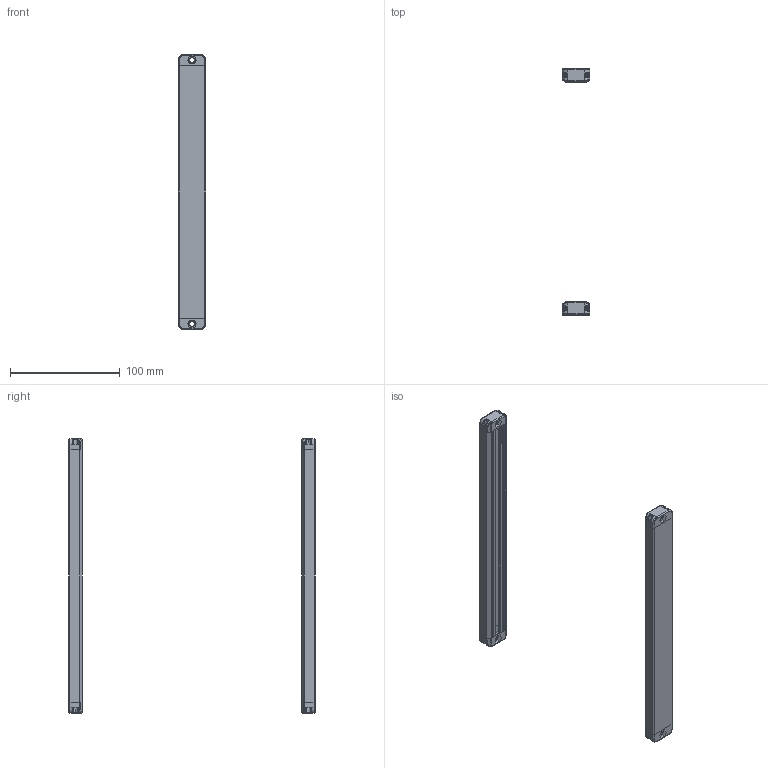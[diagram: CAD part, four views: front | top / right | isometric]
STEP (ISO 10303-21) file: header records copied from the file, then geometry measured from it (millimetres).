
FILE_DESCRIPTION (( 'STEP AP203' ), '1' );
FILE_NAME ('ZDB1220-230.STEP', '2022-08-31T03:08:35', ( 'Windows 蚚誧' ), ( 'Organization' ), 'SwSTEP 2.0', 'SolidWorks 2020', '' );
FILE_SCHEMA (( 'CONFIG_CONTROL_DESIGN' ));
Length unit declared in the file: millimetre
Products named in the file (4): ZDB1220-230; 傷裔衵; 媼啃3臏倰第; 傷裔酘諉彶
Assembly tree (6 placements, depth 2):
  ZDB1220-230
    傷裔衵  x2
    傷裔酘諉彶  x2
    媼啃3臏倰第  x2
Bounding box: 25 x 224 x 250 mm (x, y, z)
Volume: 49430.2 mm3; surface area: 79574 mm2
Topology: 6 solids, 6 shells, 650 faces, 1758 edges, 1124 vertices
Faces by surface type: plane 406, cylinder 188, torus 32, bspline 16, sphere 8
Entity records: 11427 total; most frequent: CARTESIAN_POINT 2721, ORIENTED_EDGE 1750, DIRECTION 1687, EDGE_CURVE 875, VECTOR 631, LINE 631, VERTEX_POINT 562, AXIS2_PLACEMENT_3D 528
